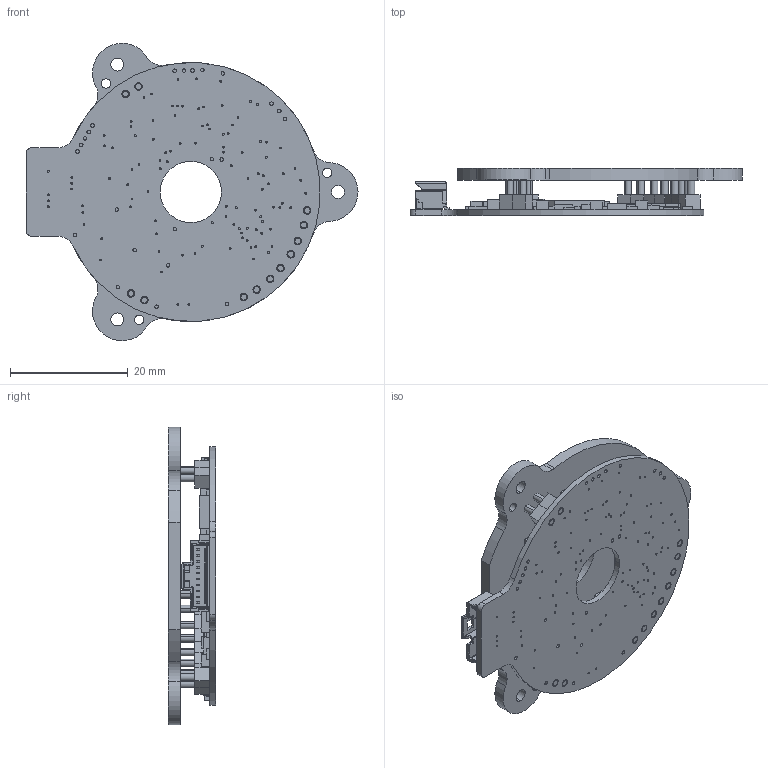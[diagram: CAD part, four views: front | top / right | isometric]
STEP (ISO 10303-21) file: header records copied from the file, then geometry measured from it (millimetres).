
FILE_DESCRIPTION (( 'STEP AP214' ), '1' );
FILE_NAME ('1020-101_Rev1-1_PR1.STEP', '2021-08-05T07:26:05', ( '' ), ( '' ), 'SwSTEP 2.0', 'SolidWorks 2021', '' );
FILE_SCHEMA (( 'AUTOMOTIVE_DESIGN' ));
Length unit declared in the file: millimetre
Products named in the file (54): Copy of 0805_L_0805 1uH SIMID inductor^Copy of e_1020_revc_1020-101_Rev1-1; Copy of SOT23_R_FDV302P^Copy of e_1020_revc_1020-101_Rev1-1; Copy of pin^Copy of 2 pin header assembly_1020-101_Rev1-1; Copy of SOP8_R_SP3077EENL^Copy of e_1020_revc_1020-101_Rev1-1; Copy of CSTCE_CSTCE8M00G55Z^Copy of e_1020_revc_1020-101_Rev1-1; Copy of 0402_BLM15_0402 1K 200mA ferrite^Copy of e_1020_revc_1020-101_Rev1-1; Copy of SOT323_R_BAT54CW^Copy of e_1020_revc_1020-101_Rev1-1; Copy of 0603_R_0603 2u2 10V capacitor^Copy of e_1020_revc_1020-101_Rev1-1; Copy of 0402_R_0402 510K resistor^Copy of e_1020_revc_1020-101_Rev1-1; Copy of 0805_R_0805 2u2 50V capacitor^Copy of e_1020_revc_1020-101_Rev1-1; Copy of SOT23 5lead_AD8628ARTZR2^Copy of e_1020_revc_1020-101_Rev1-1; Copy of TSOT23_LT3060ETS83.3^Copy of e_1020_revc_1020-101_Rev1-1; Copy of 0402_R_0402 270K resistor^Copy of e_1020_revc_1020-101_Rev1-1; Copy of 0402_R_0402 10n 50V capacitor^Copy of e_1020_revc_1020-101_Rev1-1; Copy of 0402_R_0402 1K65 TF resistor^Copy of e_1020_revc_1020-101_Rev1-1; Copy of 0402_R_0402 10K resistor^Copy of e_1020_revc_1020-101_Rev1-1; 1020-102_Rev1-1; Copy of 0603_R_0603 10n capacitor COG 5%^Copy of e_1020_revc_1020-101_Rev1-1; Copy of LQFP48_STM32F103CBT6^Copy of e_1020_revc_1020-101_Rev1-1; Copy of SOT23 5lead_REF2030AIDDCT^Copy of e_1020_revc_1020-101_Rev1-1; Copy of 0402_R_0402 100n 50V capacitor^Copy of e_1020_revc_1020-101_Rev1-1; Copy of 0402_R_0402 27K resistor^Copy of e_1020_revc_1020-101_Rev1-1; Copy of 0402_R_0402 1K resistor^Copy of e_1020_revc_1020-101_Rev1-1; Copy of 0402_R_0402 3K resistor^Copy of e_1020_revc_1020-101_Rev1-1; Copy of 0603_R_0603 200k TF resistor^Copy of e_1020_revc_1020-101_Rev1-1; Copy of e_1020_revc^1020-101_Rev1-1; Copy of 0805_R_0805 3k3 resistor 0.5W^Copy of e_1020_revc_1020-101_Rev1-1; Copy of 0603_R_0603 10n capacitor^Copy of e_1020_revc_1020-101_Rev1-1; Copy of 0612_0612 Quad Capacitor 100n^Copy of e_1020_revc_1020-101_Rev1-1; Copy of SC70 Small_SN74LVC1G3157DCKRALT^Copy of e_1020_revc_1020-101_Rev1-1; Copy of SOP8_R_SP3072EENL^Copy of e_1020_revc_1020-101_Rev1-1; Copy of moulding^Copy of 2 pin header assembly_1020-101_Rev1-1; Copy of 2 pin header assembly^1020-101_Rev1-1; Copy of SOT353_R_74AHC1G04GW^Copy of e_1020_revc_1020-101_Rev1-1; Copy of 0402_R_0402 100K resistor^Copy of e_1020_revc_1020-101_Rev1-1; Copy of 0402_R_0402 330R resistor^Copy of e_1020_revc_1020-101_Rev1-1; Copy of e_1020_revc^Copy of e_1020_revc_1020-101_Rev1-1; Copy of 0402_R_0402 1n 50V capacitor^Copy of e_1020_revc_1020-101_Rev1-1; Copy of 0402_R_0402 6K65 TF resistor^Copy of e_1020_revc_1020-101_Rev1-1; Copy of 5015681007^1020-101_Rev1-1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
Assembly tree (140 placements, depth 3):
  1020-101_Rev1-1_PR1
    1020-102_Rev1-1
    Copy of 2 pin header assembly^1020-101_Rev1-1  x6
      Copy of moulding^Copy of 2 pin header assembly_1020-101_Rev1-1
      Copy of pin^Copy of 2 pin header assembly_1020-101_Rev1-1
    Copy of 5015681007^1020-101_Rev1-1
    Copy of e_1020_revc^1020-101_Rev1-1
      Copy of e_1020_revc^Copy of e_1020_revc_1020-101_Rev1-1
      Copy of 0805_R_0805 10u 10V capacitor^Copy of e_1020_revc_1020-101_Rev1-1  x6
      Copy of SOT23_R_FDV301N^Copy of e_1020_revc_1020-101_Rev1-1
      Copy of SOT23_R_FDV302P^Copy of e_1020_revc_1020-101_Rev1-1  x2
      Copy of 0402_R_0402 100n 50V capacitor^Copy of e_1020_revc_1020-101_Rev1-1  x18
      Copy of 0402_R_0402 33p capacitor^Copy of e_1020_revc_1020-101_Rev1-1  x8
      Copy of 0402_R_0402 1K resistor^Copy of e_1020_revc_1020-101_Rev1-1  x5
      Copy of CSTCE_CSTCE8M00G55Z^Copy of e_1020_revc_1020-101_Rev1-1
      Copy of 0402_R_0402 330R resistor^Copy of e_1020_revc_1020-101_Rev1-1
      Copy of 0402_R_0402 10n 50V capacitor^Copy of e_1020_revc_1020-101_Rev1-1  x6
      Copy of 0402_BLM15_0402 1K 200mA ferrite^Copy of e_1020_revc_1020-101_Rev1-1  x9
      Copy of 0402_R_0402 0R0 resistor^Copy of e_1020_revc_1020-101_Rev1-1  x4
      Copy of 0805_R_0805 2u2 50V capacitor^Copy of e_1020_revc_1020-101_Rev1-1  x2
      Copy of TSOT23_LT3060ETS83.3^Copy of e_1020_revc_1020-101_Rev1-1
      Copy of LQFP48_STM32F103CBT6^Copy of e_1020_revc_1020-101_Rev1-1
      Copy of SOT23 5lead_LD39015M33R^Copy of e_1020_revc_1020-101_Rev1-1  x2
      Copy of 0603_R_0603 2u2 10V capacitor^Copy of e_1020_revc_1020-101_Rev1-1  x6
      Copy of SC70 Small_SN74LVC1G3157DCKRALT^Copy of e_1020_revc_1020-101_Rev1-1  x12
      Copy of 0805_R_0805 3k3 resistor 0.5W^Copy of e_1020_revc_1020-101_Rev1-1  x2
      Copy of 0603_R_0603 200k TF resistor^Copy of e_1020_revc_1020-101_Rev1-1  x2
      Copy of 0402_R_0402 10K resistor^Copy of e_1020_revc_1020-101_Rev1-1  x2
      Copy of 0612_0612 Quad Resistor 56R^Copy of e_1020_revc_1020-101_Rev1-1
      Copy of 0402_R_0402 3K resistor^Copy of e_1020_revc_1020-101_Rev1-1
      Copy of 0402_R_0402 82K resistor^Copy of e_1020_revc_1020-101_Rev1-1
      Copy of 0612_0612 Quad Resistor 33R^Copy of e_1020_revc_1020-101_Rev1-1  x2
      Copy of 0805_L_0805 1uH SIMID inductor^Copy of e_1020_revc_1020-101_Rev1-1
      Copy of 0402_R_0402 6K65 TF resistor^Copy of e_1020_revc_1020-101_Rev1-1  x4
      Copy of SOP8_R_SP3077EENL^Copy of e_1020_revc_1020-101_Rev1-1
      Copy of SOP8_R_SP3072EENL^Copy of e_1020_revc_1020-101_Rev1-1
      Copy of 0603_R_0603 10n capacitor COG 5%^Copy of e_1020_revc_1020-101_Rev1-1
      Copy of 0603_R_0603 10n capacitor^Copy of e_1020_revc_1020-101_Rev1-1
      Copy of 0603_R_0603 10R resistor^Copy of e_1020_revc_1020-101_Rev1-1
      Copy of SOT353_R_74AHC1G04GW^Copy of e_1020_revc_1020-101_Rev1-1
      Copy of SOT323_R_BAT54CW^Copy of e_1020_revc_1020-101_Rev1-1
      Copy of 0402_R_0402 1n 50V capacitor^Copy of e_1020_revc_1020-101_Rev1-1
      Copy of TSOT23_LT3060ETS8^Copy of e_1020_revc_1020-101_Rev1-1
      Copy of SOT23 5lead_AD8628ARTZR2^Copy of e_1020_revc_1020-101_Rev1-1  x2
      Copy of 0402_R_0402 510K resistor^Copy of e_1020_revc_1020-101_Rev1-1
      Copy of 0402_R_0402 27K resistor^Copy of e_1020_revc_1020-101_Rev1-1  x2
      Copy of 0612_0612 Quad Capacitor 100n^Copy of e_1020_revc_1020-101_Rev1-1
      Copy of 0402_R_0402 1K65 TF resistor^Copy of e_1020_revc_1020-101_Rev1-1  x4
      Copy of 0402_R_0402 33R resistor^Copy of e_1020_revc_1020-101_Rev1-1
      Copy of 0402_R_0402 330K resistor^Copy of e_1020_revc_1020-101_Rev1-1
      Copy of 0402_R_0402 270K resistor^Copy of e_1020_revc_1020-101_Rev1-1
      Copy of 0402_R_0402 100K resistor^Copy of e_1020_revc_1020-101_Rev1-1
      Copy of MSOP_8EP_LT3062EMS8EAdj^Copy of e_1020_revc_1020-101_Rev1-1
      Copy of SOT23 5lead_REF2030AIDDCT^Copy of e_1020_revc_1020-101_Rev1-1
Bounding box: 56.4 x 8 x 50.53 mm (x, y, z)
Volume: 5853.2 mm3; surface area: 10921.7 mm2
Topology: 153 solids, 153 shells, 1617 faces, 3881 edges, 2580 vertices
Faces by surface type: plane 1163, cylinder 450, cone 4
Entity records: 41274 total; most frequent: DIRECTION 5760, CARTESIAN_POINT 5599, ORIENTED_EDGE 5314, EDGE_CURVE 2657, AXIS2_PLACEMENT_3D 1962, LINE 1836, VECTOR 1836, VERTEX_POINT 1764
